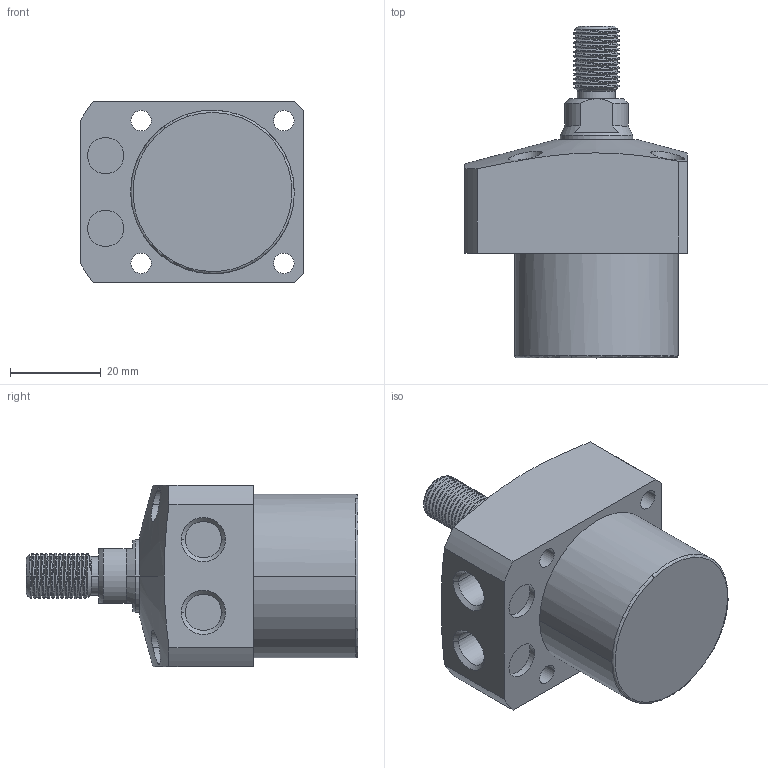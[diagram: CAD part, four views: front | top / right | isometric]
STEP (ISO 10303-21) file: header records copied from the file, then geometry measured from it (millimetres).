
FILE_DESCRIPTION((' '),'2;1');
FILE_NAME( 'TLL-036CT-015.STEP.stp', '2025-10-24T16:39:41', (' '), ('--- Datakit www.datakit.com---'), ' Datakit CrossCadWare V2024.1 Dec 21 2023', 'Mastercam 2025', ' ');
FILE_SCHEMA(('AUTOMOTIVE_DESIGN { 1 0 10303 214 1 1 1 1 }'));
Length unit declared in the file: millimetre
Products named in the file (1): TLL-036CT-015
Bounding box: 49 x 73 x 40 mm (x, y, z)
Volume: 66305.6 mm3; surface area: 13271.4 mm2
Topology: 1 solids, 1 shells, 102 faces, 356 edges, 267 vertices
Faces by surface type: cylinder 60, plane 23, cone 15, bspline 2, torus 2
Entity records: 11652 total; most frequent: CARTESIAN_POINT 8664, ORIENTED_EDGE 712, DIRECTION 522, EDGE_CURVE 356, VERTEX_POINT 267, AXIS2_PLACEMENT_3D 217, B_SPLINE_CURVE_WITH_KNOTS 152, EDGE_LOOP 121
